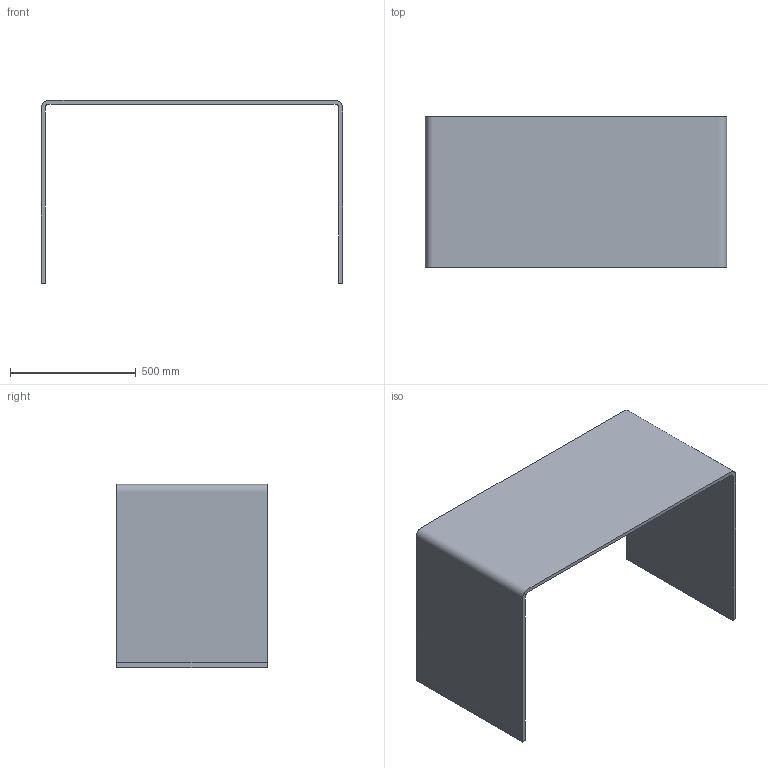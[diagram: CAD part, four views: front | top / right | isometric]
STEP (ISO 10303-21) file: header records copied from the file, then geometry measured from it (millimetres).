
FILE_DESCRIPTION(/* description */ (''),/* implementation_level */ '2;1');
FILE_NAME(/* name */ 'Rialto Scrivania - 120x60',/* time_stamp */ '2010-11-05T10:06:42+01:00',/* author */ (''),/* organization */ (''),/* preprocessor_version */ 'ST-DEVELOPER v10',/* originating_system */ '',/* authorisation */ '');
FILE_SCHEMA (('CONFIG_CONTROL_DESIGN'));
Length unit declared in the file: centimetre
Products named in the file (1): 1
Bounding box: 1202 x 600 x 731 mm (x, y, z)
Volume: 21024975 mm3; surface area: 3386623.2 mm2
Topology: 3 solids, 3 shells, 26 faces, 60 edges, 40 vertices
Faces by surface type: plane 24, bspline 2
Entity records: 788 total; most frequent: CARTESIAN_POINT 266, ORIENTED_EDGE 120, EDGE_CURVE 60, B_SPLINE_CURVE_WITH_KNOTS 56, VERTEX_POINT 40, DIRECTION 28, ADVANCED_FACE 26, FACE_OUTER_BOUND 26
